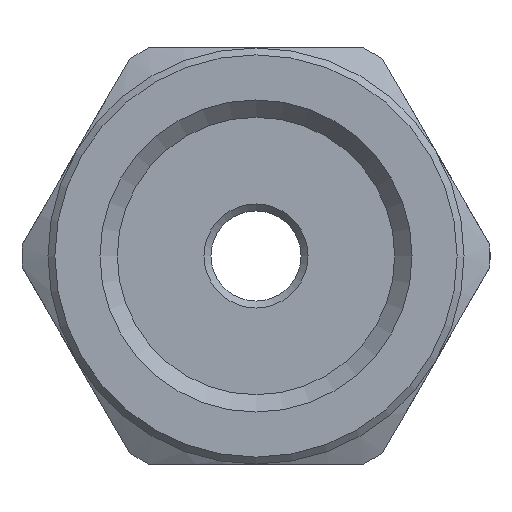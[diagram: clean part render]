
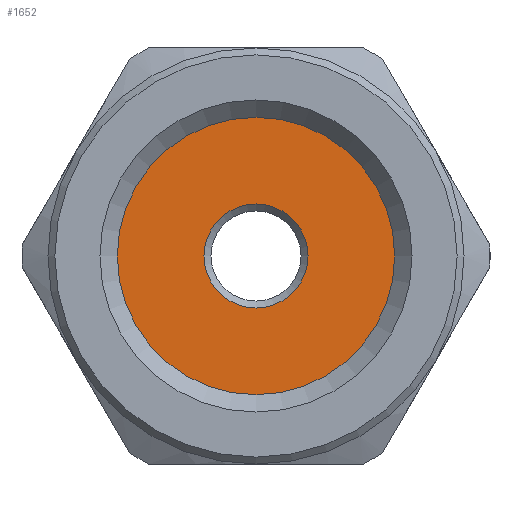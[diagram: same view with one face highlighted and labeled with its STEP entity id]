
A CAD part, left-side view. The second image highlights one B-rep face of the part: STEP entity #1652.
In plain terms, the highlighted planar face has unit normal (-1, 0, 0).
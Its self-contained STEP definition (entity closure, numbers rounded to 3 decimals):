
#1652=ADVANCED_FACE('',(#4197,#4198),#4199,.F.);
#4197=FACE_BOUND('',#7811,.T.);
#4198=FACE_OUTER_BOUND('',#7812,.T.);
#4199=PLANE('',#7813);
#7811=EDGE_LOOP('',(#14405));
#7812=EDGE_LOOP('',(#14406));
#7813=AXIS2_PLACEMENT_3D('',#14407,#14408,#14409);
#14405=ORIENTED_EDGE('',*,*,#17654,.T.);
#14406=ORIENTED_EDGE('',*,*,#17615,.F.);
#14407=CARTESIAN_POINT('',(0.9,0.,0.));
#14408=DIRECTION('',(1.0,0.0,0.0));
#14409=DIRECTION('',(0.0,1.0,0.0));
#17615=EDGE_CURVE('',#18009,#18009,#18010,.T.);
#17654=EDGE_CURVE('',#18055,#18055,#18056,.T.);
#18009=VERTEX_POINT('',#18498);
#18010=CIRCLE('',#18499,4.0);
#18055=VERTEX_POINT('',#18577);
#18056=CIRCLE('',#18578,1.5);
#18498=CARTESIAN_POINT('',(0.9,0.,4.0));
#18499=AXIS2_PLACEMENT_3D('',#18865,#18866,#18867);
#18577=CARTESIAN_POINT('',(0.9,0.0,-1.5));
#18578=AXIS2_PLACEMENT_3D('',#18892,#18893,#18894);
#18865=CARTESIAN_POINT('',(0.9,0.,0.));
#18866=DIRECTION('',(1.0,0.0,-0.0));
#18867=DIRECTION('',(0.0,0.0,1.0));
#18892=CARTESIAN_POINT('',(0.9,0.0,0.0));
#18893=DIRECTION('',(1.0,0.0,0.0));
#18894=DIRECTION('',(0.0,0.0,-1.0));
